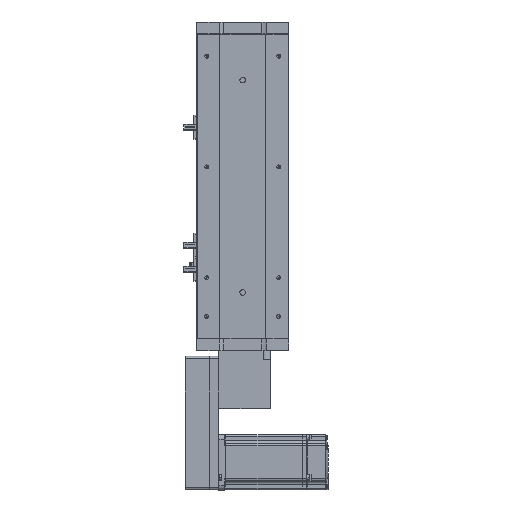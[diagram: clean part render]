
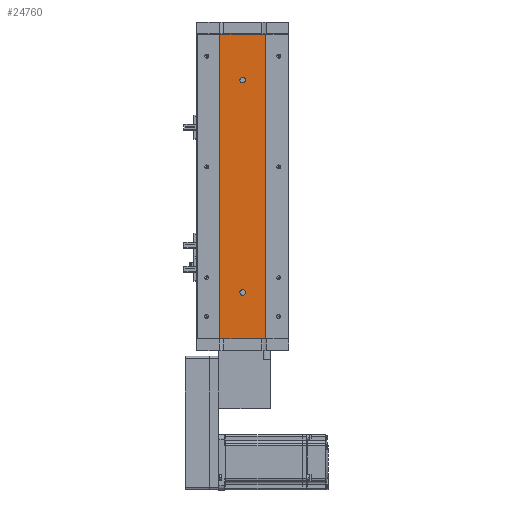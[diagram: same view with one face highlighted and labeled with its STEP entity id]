
A CAD part, left-side view. The second image highlights one B-rep face of the part: STEP entity #24760.
In plain terms, the highlighted planar face has unit normal (-1, 0, 0).
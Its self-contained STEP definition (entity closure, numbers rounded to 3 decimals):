
#388 = CARTESIAN_POINT ( 'NONE',  ( -18.926, 0., 50. ) ) ;
#1268 = VERTEX_POINT ( 'NONE', #53959 ) ;
#2068 = DIRECTION ( 'NONE',  ( -1., 0., 0. ) ) ;
#2312 = DIRECTION ( 'NONE',  ( 0., 0., 1. ) ) ;
#3252 = EDGE_LOOP ( 'NONE', ( #24959, #33499 ) ) ;
#3270 = CARTESIAN_POINT ( 'NONE',  ( -18.926, 0., 47. ) ) ;
#3746 = ORIENTED_EDGE ( 'NONE', *, *, #32634, .F. ) ;
#4346 = VECTOR ( 'NONE', #46184, 1000. ) ;
#4986 = DIRECTION ( 'NONE',  ( 0., 0., 1. ) ) ;
#5498 = ORIENTED_EDGE ( 'NONE', *, *, #56066, .T. ) ;
#5775 = LINE ( 'NONE', #23032, #4346 ) ;
#5949 = DIRECTION ( 'NONE',  ( 0., -1., 0. ) ) ;
#7097 = DIRECTION ( 'NONE',  ( 0., -1., 0. ) ) ;
#8143 = CARTESIAN_POINT ( 'NONE',  ( -18.926, 0., 280. ) ) ;
#8552 = DIRECTION ( 'NONE',  ( 1., 0., 0. ) ) ;
#9043 = EDGE_CURVE ( 'NONE', #27445, #14226, #10661, .T. ) ;
#9633 = ORIENTED_EDGE ( 'NONE', *, *, #36514, .F. ) ;
#10661 = LINE ( 'NONE', #10922, #58149 ) ;
#10922 = CARTESIAN_POINT ( 'NONE',  ( -18.926, 24.785, 330. ) ) ;
#11124 = CARTESIAN_POINT ( 'NONE',  ( -18.926, -24.785, 0. ) ) ;
#11417 = ORIENTED_EDGE ( 'NONE', *, *, #43897, .F. ) ;
#12786 = DIRECTION ( 'NONE',  ( 0., 0., 1. ) ) ;
#14226 = VERTEX_POINT ( 'NONE', #19447 ) ;
#15961 = AXIS2_PLACEMENT_3D ( 'NONE', #388, #32522, #4986 ) ;
#16646 = FACE_BOUND ( 'NONE', #3252, .T. ) ;
#17428 = LINE ( 'NONE', #19808, #40455 ) ;
#19447 = CARTESIAN_POINT ( 'NONE',  ( -18.926, 24.785, 0. ) ) ;
#19808 = CARTESIAN_POINT ( 'NONE',  ( -18.926, 24.785, 330. ) ) ;
#20735 = CARTESIAN_POINT ( 'NONE',  ( -18.926, 24.785, 0. ) ) ;
#22488 = VERTEX_POINT ( 'NONE', #35660 ) ;
#23032 = CARTESIAN_POINT ( 'NONE',  ( -18.926, -24.785, 330. ) ) ;
#24600 = VECTOR ( 'NONE', #7097, 1000. ) ;
#24754 = DIRECTION ( 'NONE',  ( 0., 0., -1. ) ) ;
#24760 = ADVANCED_FACE ( 'NONE', ( #51936, #16646, #41108 ), #45133, .F. ) ;
#24959 = ORIENTED_EDGE ( 'NONE', *, *, #57096, .F. ) ;
#25139 = CARTESIAN_POINT ( 'NONE',  ( -18.926, 24.785, 330. ) ) ;
#25708 = VERTEX_POINT ( 'NONE', #3270 ) ;
#26631 = EDGE_CURVE ( 'NONE', #27445, #47641, #17428, .T. ) ;
#27445 = VERTEX_POINT ( 'NONE', #25139 ) ;
#29255 = EDGE_CURVE ( 'NONE', #22488, #1268, #51114, .T. ) ;
#29525 = CARTESIAN_POINT ( 'NONE',  ( -18.926, 0., 280. ) ) ;
#29805 = DIRECTION ( 'NONE',  ( -1., 0., 0. ) ) ;
#31086 = AXIS2_PLACEMENT_3D ( 'NONE', #8143, #40301, #12786 ) ;
#32522 = DIRECTION ( 'NONE',  ( -1., 0., 0. ) ) ;
#32634 = EDGE_CURVE ( 'NONE', #44599, #25708, #38281, .T. ) ;
#33499 = ORIENTED_EDGE ( 'NONE', *, *, #29255, .F. ) ;
#33603 = AXIS2_PLACEMENT_3D ( 'NONE', #36081, #8552, #40708 ) ;
#34185 = DIRECTION ( 'NONE',  ( 0., 0., 1. ) ) ;
#35275 = EDGE_LOOP ( 'NONE', ( #5498, #9633, #54982, #48798 ) ) ;
#35660 = CARTESIAN_POINT ( 'NONE',  ( -18.926, 0., 277. ) ) ;
#36081 = CARTESIAN_POINT ( 'NONE',  ( -18.926, 24.785, 330. ) ) ;
#36514 = EDGE_CURVE ( 'NONE', #47641, #56002, #5775, .T. ) ;
#38281 = CIRCLE ( 'NONE', #52017, 3. ) ;
#40301 = DIRECTION ( 'NONE',  ( -1., 0., 0. ) ) ;
#40455 = VECTOR ( 'NONE', #5949, 1000. ) ;
#40708 = DIRECTION ( 'NONE',  ( 0., 0., -1. ) ) ;
#41108 = FACE_OUTER_BOUND ( 'NONE', #35275, .T. ) ;
#42434 = AXIS2_PLACEMENT_3D ( 'NONE', #29525, #2068, #34185 ) ;
#42469 = CARTESIAN_POINT ( 'NONE',  ( -18.926, 0., 53. ) ) ;
#43897 = EDGE_CURVE ( 'NONE', #25708, #44599, #50003, .T. ) ;
#44599 = VERTEX_POINT ( 'NONE', #42469 ) ;
#45133 = PLANE ( 'NONE',  #33603 ) ;
#46184 = DIRECTION ( 'NONE',  ( 0., 0., -1. ) ) ;
#47641 = VERTEX_POINT ( 'NONE', #52431 ) ;
#48798 = ORIENTED_EDGE ( 'NONE', *, *, #9043, .T. ) ;
#50003 = CIRCLE ( 'NONE', #15961, 3. ) ;
#50541 = LINE ( 'NONE', #20735, #24600 ) ;
#51114 = CIRCLE ( 'NONE', #42434, 3. ) ;
#51936 = FACE_BOUND ( 'NONE', #59496, .T. ) ;
#52017 = AXIS2_PLACEMENT_3D ( 'NONE', #57404, #29805, #2312 ) ;
#52431 = CARTESIAN_POINT ( 'NONE',  ( -18.926, -24.785, 330. ) ) ;
#53959 = CARTESIAN_POINT ( 'NONE',  ( -18.926, 0., 283. ) ) ;
#54982 = ORIENTED_EDGE ( 'NONE', *, *, #26631, .F. ) ;
#56002 = VERTEX_POINT ( 'NONE', #11124 ) ;
#56066 = EDGE_CURVE ( 'NONE', #14226, #56002, #50541, .T. ) ;
#57096 = EDGE_CURVE ( 'NONE', #1268, #22488, #57958, .T. ) ;
#57404 = CARTESIAN_POINT ( 'NONE',  ( -18.926, 0., 50. ) ) ;
#57958 = CIRCLE ( 'NONE', #31086, 3. ) ;
#58149 = VECTOR ( 'NONE', #24754, 1000. ) ;
#59496 = EDGE_LOOP ( 'NONE', ( #3746, #11417 ) ) ;
